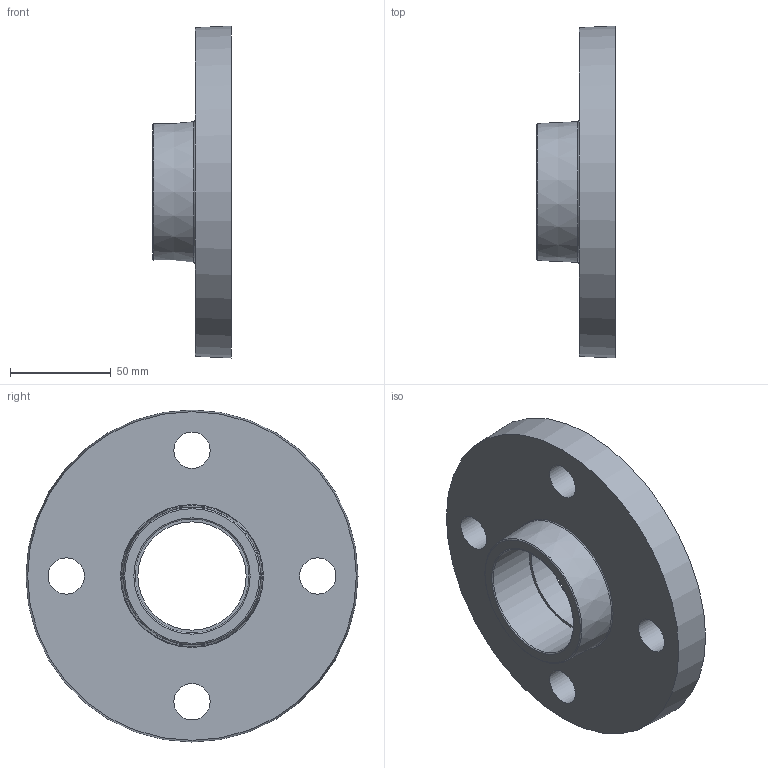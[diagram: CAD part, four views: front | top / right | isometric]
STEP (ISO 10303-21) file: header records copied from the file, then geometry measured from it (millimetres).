
FILE_DESCRIPTION(/* description */ ('PLASSON THR. FIXED FLANGE PVC 2"'),/* implementation_level */ '2;1');
FILE_NAME(/* name */ 'C:\Dropbox\KIMPROJECTS-Inventor\99-16-3568-Processing\PVC Catalog 2017\059201\059201020.ipt.stp',/* time_stamp */ '2017-12-07T16:07:30+02:00',/* author */ ('KIM'),/* organization */ (''),/* preprocessor_version */ 'ST-DEVELOPER v15.6',/* originating_system */ 'Autodesk Inventor 2015',/* authorisation */ '');
FILE_SCHEMA (('AUTOMOTIVE_DESIGN { 1 0 10303 214 3 1 1 }'));
Length unit declared in the file: millimetre
Products named in the file (1): 059201020
Bounding box: 39 x 165 x 165 mm (x, y, z)
Volume: 345837.2 mm3; surface area: 60488.4 mm2
Topology: 1 solids, 1 shells, 28 faces, 50 edges, 32 vertices
Faces by surface type: cylinder 12, plane 10, torus 4, cone 2
Full cylindrical faces by diameter (mm): 18 x4, 53.823 x1, 56.606 x1, 56.656 x1, 58.256 x1, 59.906 x1, 61.556 x1, 63.206 x1, 64.856 x1
Entity records: 648 total; most frequent: DIRECTION 122, CARTESIAN_POINT 93, EDGE_LOOP 64, ORIENTED_EDGE 64, AXIS2_PLACEMENT_3D 61, FACE_BOUND 36, CIRCLE 32, VERTEX_POINT 32
